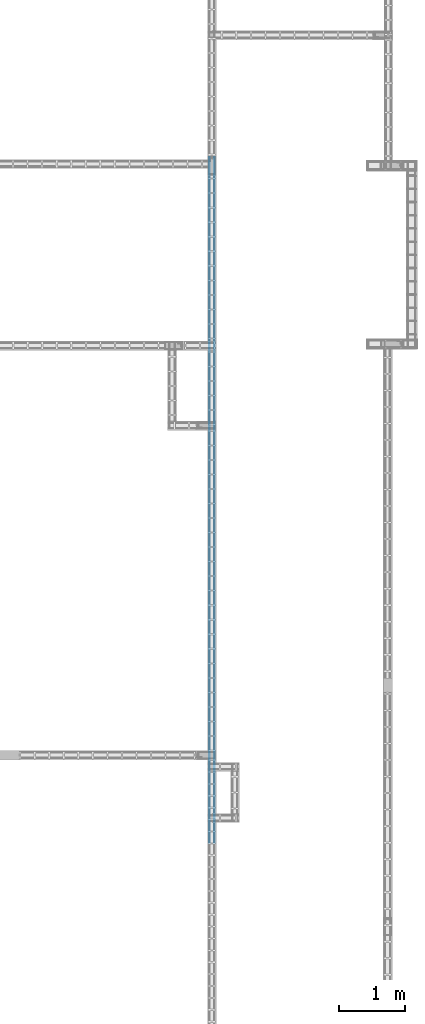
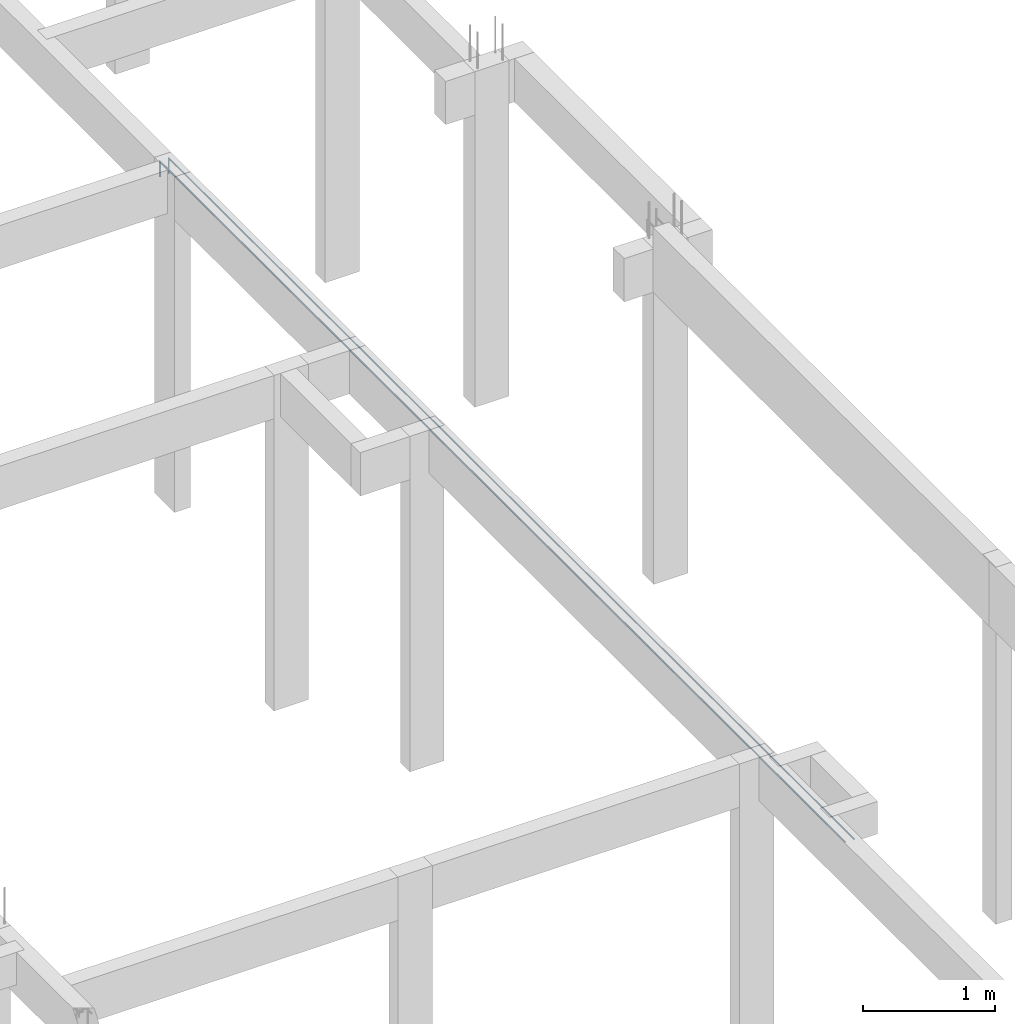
# One storey, part 71 of 236: 2 reinforcing bars.
"""IFC4 building model written with IfcOpenShell, lengths in centimetres."""

from ifc_helpers import new_model, entity, si_unit, derived_unit, frame, origin_with_axes, place, context, project, spatial, element, save


model = new_model("IFC4")

# Units and contexts
model_context = context("Model", 3, precision=1e-05, world=origin_with_axes(), identifier="Body")
ifc_project = project(units=[si_unit("LENGTHUNIT", "METRE", prefix="CENTI"), si_unit("VOLUMEUNIT", "CUBIC_METRE"), si_unit("AREAUNIT", "SQUARE_METRE"), si_unit("POWERUNIT", "WATT"), si_unit("LUMINOUSFLUXUNIT", "LUMEN"), si_unit("ELECTRICCURRENTUNIT", "AMPERE"), si_unit("PRESSUREUNIT", "PASCAL", prefix="KILO"), si_unit("MASSUNIT", "GRAM", prefix="KILO"), si_unit("PLANEANGLEUNIT", "RADIAN"), derived_unit("VOLUMETRICFLOWRATEUNIT", [(si_unit("LENGTHUNIT", "METRE"), 3), (si_unit("TIMEUNIT", "SECOND"), -1)])], contexts=[model_context])

# Site, building, storey
site_placement = place(None, frame((-4000.0, 0.0, 0.0), z_axis=(0.0, 0.0, 1.0), x_axis=(1.0, 0.0, 0.0)))
site = spatial("IfcSite", under=ifc_project, at=site_placement, Name="PADRÃO")
building_placement = place(site_placement, frame((0.0, 0.0, -14.0)))
building = spatial("IfcBuilding", under=site, at=building_placement, Name="CRECHE PRÉ-ESCOLA TIPO 2")
placement_1 = place(building_placement, origin_with_axes())
placement_2 = place(placement_1, frame((0.0, 0.0, 30.0), z_axis=(0.0, 0.0, 1.0), x_axis=(1.0, 0.0, 0.0)))
storey_placement = place(placement_2, frame((0.0, 0.0, 310.0), z_axis=(0.0, 0.0, 1.0), x_axis=(1.0, 0.0, 0.0)))
storey = spatial("IfcBuildingStorey", under=building, at=storey_placement, Name="TERREO", CompositionType="ELEMENT", Elevation=326.0)

# Reinforcing bars
for number, where, z_axis, x_axis, name in (
    (1, (1114.845, 2964.00292989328, -2.49414021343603), (0.0, 0.0, 1.0), (1.0, 0.0, 0.0), "V278 - Longitudinal superior"),
    (2, (1122.595, 2964.00292989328, -2.49414021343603), (0.0, 0.0, 1.0), (1.0, 0.0, 0.0), "V278 - Longitudinal superior"),
):
    element("IfcReinforcingBar", number, at=place(storey_placement, frame(where, z_axis=z_axis, x_axis=x_axis)), inside=storey, Name=name, BarLength=0.0, CrossSectionArea=0.000122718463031, NominalDiameter=1.25, PredefinedType="MAIN", context=model_context, shape_type="AdvancedSweptSolid", body=[
        entity("IfcSweptDiskSolid", entity("IfcCompositeCurve", [entity("IfcCompositeCurveSegment", "CONTINUOUS", True, entity("IfcPolyline", [entity("IfcCartesianPoint", [0.0, -519.002929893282, -0.630859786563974]), entity("IfcCartesianPoint", [0.0, 518.372070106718, -0.630859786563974])])), entity("IfcCompositeCurveSegment", "CONTINUOUS", True, entity("IfcPolyline", [entity("IfcCartesianPoint", [0.0, 518.372070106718, -0.630859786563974]), entity("IfcCartesianPoint", [0.0, 518.372070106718, -14.9013958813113])]))], False), 0.625),
    ])

save(model, "model.ifc")
